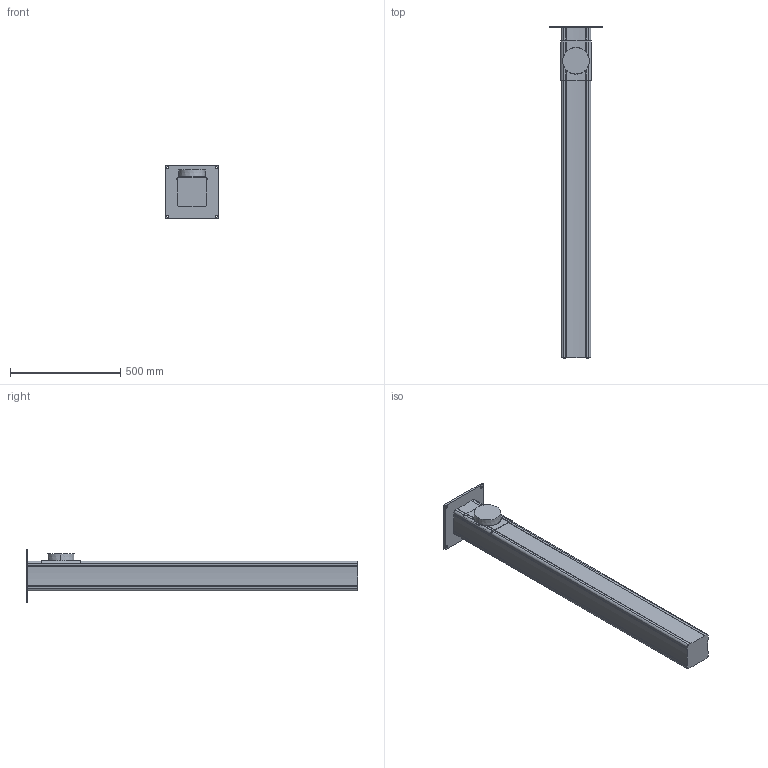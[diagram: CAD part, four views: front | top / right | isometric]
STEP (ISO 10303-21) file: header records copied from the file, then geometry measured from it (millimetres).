
FILE_DESCRIPTION((''),'2;1');
FILE_NAME('MTI1500-125','2015-12-02T',('Tomas Bellgran'),(''),'PRO/ENGINEER BY PARAMETRIC TECHNOLOGY CORPORATION, 2013410','PRO/ENGINEER BY PARAMETRIC TECHNOLOGY CORPORATION, 2013410','');
FILE_SCHEMA(('AUTOMOTIVE_DESIGN { 1 0 10303 214 1 1 1 1 }'));
Length unit declared in the file: millimetre
Products named in the file (6): 100566; 100731; G_MTI_SPIGOT_100; G_MTI_SPIGOT_100_TPE; 101330; MTI1500-125
Assembly tree (5 placements, depth 3):
  MTI1500-125
    100566
    100731
    101330
      G_MTI_SPIGOT_100
      G_MTI_SPIGOT_100_TPE
Bounding box: 245 x 1508 x 245 mm (x, y, z)
Volume: 26384013.7 mm3; surface area: 1043791.4 mm2
Topology: 4 solids, 4 shells, 92 faces, 252 edges, 166 vertices
Faces by surface type: cylinder 52, plane 30, bspline 8, cone 2
Entity records: 13025 total; most frequent: CARTESIAN_POINT 8762, DIRECTION 514, ORIENTED_EDGE 504, PROPERTY_DEFINITION 255, EDGE_CURVE 252, REPRESENTATION 251, PROPERTY_DEFINITION_REPRESENTATION 251, DESCRIPTIVE_REPRESENTATION_ITEM 209
